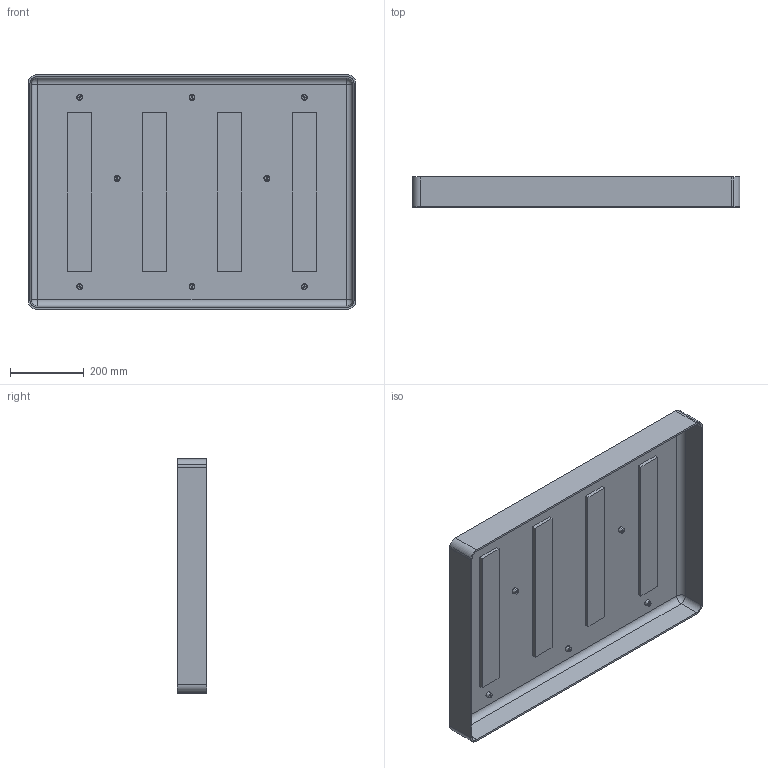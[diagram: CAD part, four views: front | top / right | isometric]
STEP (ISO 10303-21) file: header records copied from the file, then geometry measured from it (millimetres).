
FILE_DESCRIPTION (( 'STEP AP214' ), '1' );
FILE_NAME ('1730E - 932 TOP PID 4-10-2025.STEP', '2025-06-13T01:24:08', ( '' ), ( '' ), 'SwSTEP 2.0', 'SolidWorks 2021', '' );
FILE_SCHEMA (( 'AUTOMOTIVE_DESIGN' ));
Length unit declared in the file: inch
Products named in the file (1): 1730E - 932 TOP PID 4-10-2025
Bounding box: 890.2 x 80.64 x 636.2 mm (x, y, z)
Volume: 7095182.8 mm3; surface area: 1601285.6 mm2
Topology: 1 solids, 1 shells, 91 faces, 224 edges, 136 vertices
Faces by surface type: plane 39, cone 32, bspline 8, cylinder 8, sphere 4
Entity records: 2982 total; most frequent: CARTESIAN_POINT 912, ORIENTED_EDGE 408, DIRECTION 408, EDGE_CURVE 204, AXIS2_PLACEMENT_3D 144, VERTEX_POINT 136, VECTOR 120, LINE 120
